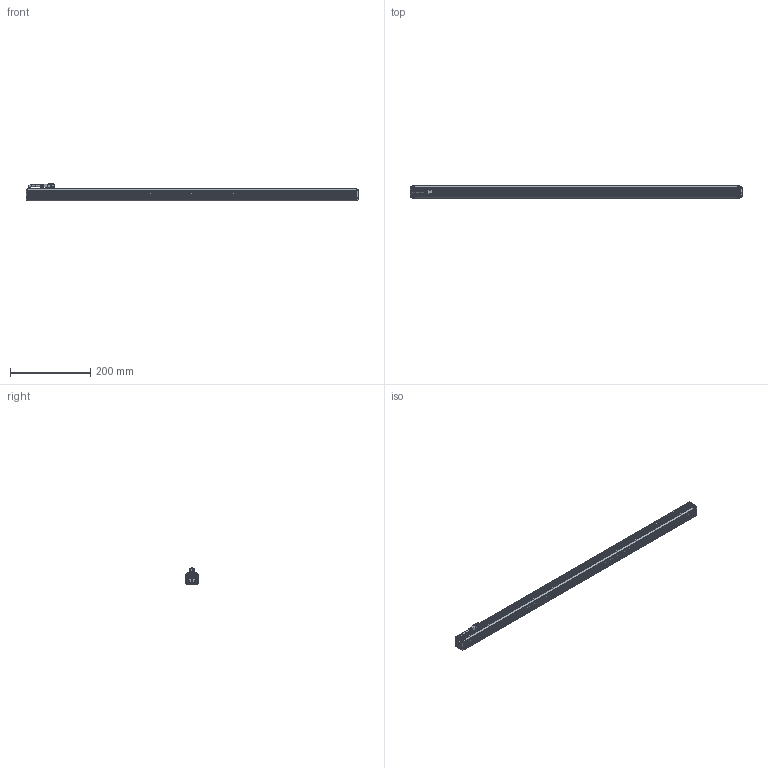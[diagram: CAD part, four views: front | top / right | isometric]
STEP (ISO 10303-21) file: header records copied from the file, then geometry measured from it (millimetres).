
FILE_DESCRIPTION((''),'2;1');
FILE_NAME('MV-LLDS-H-900-30-W-PL_ASM','2024-04-08T14:34:22',('huguozhe'),(''),'CREO PARAMETRIC BY PTC INC, 2020044','CREO PARAMETRIC BY PTC INC, 2020044','');
FILE_SCHEMA(('AUTOMOTIVE_DESIGN { 1 0 10303 214 1 1 1 1 }'));
Length unit declared in the file: millimetre
Products named in the file (15): DE-15-001274; DE-15-001273_ASM; DE-15-000528; DE-15-000527_ASM; DE-12-002271; TIP-M3X4-4_5X5-SO-ET-07061033; DE-12-002271_ASM; DE-12-001583; SC-KM2X6-BNI-GB819; XIANLAN_HEAD; CABLE_HEAD; CABLE_HEAD_ASM_ASM; 190100852; SC-PM2X6B-JMP; MV-LLDS-H-900-30-W-PL_ASM
Assembly tree (35 placements, depth 3):
  MV-LLDS-H-900-30-W-PL_ASM
    DE-15-001273_ASM
      DE-15-001274
    DE-15-000527_ASM
      DE-15-000528
    DE-12-002271_ASM  x2
      DE-12-002271
      TIP-M3X4-4_5X5-SO-ET-07061033
    DE-12-001583
    SC-KM2X6-BNI-GB819  x6
    CABLE_HEAD_ASM_ASM
      XIANLAN_HEAD
      CABLE_HEAD
    190100852  x8
    SC-PM2X6B-JMP  x8
Bounding box: 828 x 30 x 42.65 mm (x, y, z)
Volume: 569884.8 mm3; surface area: 303052.3 mm2
Topology: 33 solids, 73 shells, 2916 faces, 7498 edges, 4713 vertices
Faces by surface type: plane 1404, cylinder 642, bspline 472, cone 335, torus 54, sphere 8, extrusion 1
Entity records: 49075 total; most frequent: CARTESIAN_POINT 11420, ORIENTED_EDGE 6314, DIRECTION 6127, EDGE_CURVE 3193, AXIS2_PLACEMENT_3D 2058, VERTEX_POINT 2046, VECTOR 2011, LINE 2010
